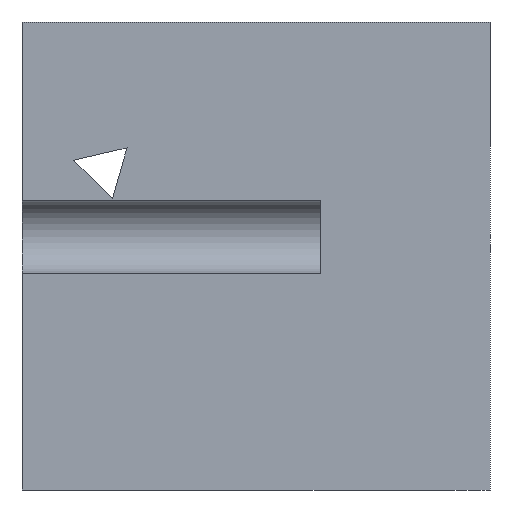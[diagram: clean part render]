
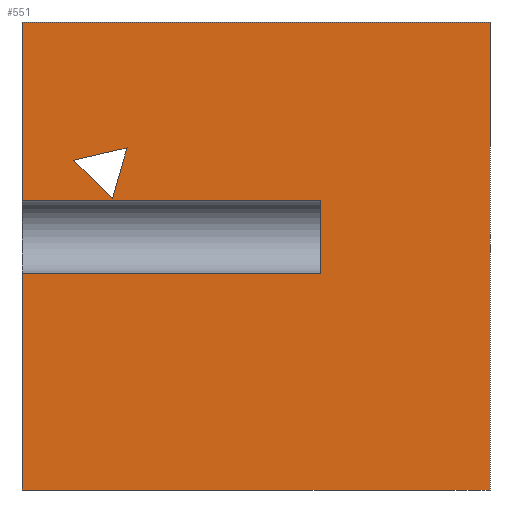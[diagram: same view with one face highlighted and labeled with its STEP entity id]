
A CAD part, left-side view. The second image highlights one B-rep face of the part: STEP entity #551.
In plain terms, the highlighted planar face has unit normal (-1, 0, 0).
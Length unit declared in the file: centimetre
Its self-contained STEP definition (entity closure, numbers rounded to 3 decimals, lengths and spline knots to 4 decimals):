
#1 = CARTESIAN_POINT ( 'NONE',  ( 0., 775.6127, 731.1019 ) ) ;
#15 = CARTESIAN_POINT ( 'NONE',  ( 0., 1000., 619.3655 ) ) ;
#21 = EDGE_CURVE ( 'NONE', #167, #868, #258, .T. ) ;
#22 = ORIENTED_EDGE ( 'NONE', *, *, #228, .T. ) ;
#48 = VECTOR ( 'NONE', #416, 100. ) ;
#52 = DIRECTION ( 'NONE',  ( 0., 1., 0. ) ) ;
#55 = LINE ( 'NONE', #59, #65 ) ;
#59 = CARTESIAN_POINT ( 'NONE',  ( 0., 1000., 1000. ) ) ;
#65 = VECTOR ( 'NONE', #333, 100. ) ;
#69 = EDGE_CURVE ( 'NONE', #899, #729, #55, .T. ) ;
#107 = CARTESIAN_POINT ( 'NONE',  ( 0., 361.7893, 619.3655 ) ) ;
#110 = CARTESIAN_POINT ( 'NONE',  ( 0., 1000., 1000. ) ) ;
#119 = VECTOR ( 'NONE', #781, 100. ) ;
#134 = CARTESIAN_POINT ( 'NONE',  ( 0., 1000., 1000. ) ) ;
#138 = LINE ( 'NONE', #148, #775 ) ;
#146 = EDGE_CURVE ( 'NONE', #713, #654, #154, .T. ) ;
#148 = CARTESIAN_POINT ( 'NONE',  ( 0., 1000., 1000. ) ) ;
#154 = LINE ( 'NONE', #168, #903 ) ;
#167 = VERTEX_POINT ( 'NONE', #107 ) ;
#168 = CARTESIAN_POINT ( 'NONE',  ( 0., 806.7545, 622.1771 ) ) ;
#174 = DIRECTION ( 'NONE',  ( 0., 0., -1. ) ) ;
#204 = LINE ( 'NONE', #843, #671 ) ;
#205 = CARTESIAN_POINT ( 'NONE',  ( 0., 889.1642, 704.5868 ) ) ;
#216 = EDGE_CURVE ( 'NONE', #749, #302, #346, .T. ) ;
#222 = AXIS2_PLACEMENT_3D ( 'NONE', #687, #328, #174 ) ;
#228 = EDGE_CURVE ( 'NONE', #520, #749, #698, .T. ) ;
#243 = DIRECTION ( 'NONE',  ( 0., 0.275, -0.961 ) ) ;
#245 = ORIENTED_EDGE ( 'NONE', *, *, #269, .T. ) ;
#258 = LINE ( 'NONE', #335, #310 ) ;
#269 = EDGE_CURVE ( 'NONE', #605, #713, #496, .T. ) ;
#272 = CARTESIAN_POINT ( 'NONE',  ( 0., 1000., 0. ) ) ;
#282 = DIRECTION ( 'NONE',  ( 0., -1., 0. ) ) ;
#287 = CARTESIAN_POINT ( 'NONE',  ( 0., 1000., 0. ) ) ;
#289 = EDGE_CURVE ( 'NONE', #899, #868, #138, .T. ) ;
#302 = VERTEX_POINT ( 'NONE', #485 ) ;
#308 = ORIENTED_EDGE ( 'NONE', *, *, #426, .F. ) ;
#310 = VECTOR ( 'NONE', #52, 100. ) ;
#326 = VECTOR ( 'NONE', #508, 100. ) ;
#328 = DIRECTION ( 'NONE',  ( 1., 0., 0. ) ) ;
#333 = DIRECTION ( 'NONE',  ( 0., -1., 0. ) ) ;
#335 = CARTESIAN_POINT ( 'NONE',  ( 0., 361.7893, 619.3655 ) ) ;
#337 = EDGE_CURVE ( 'NONE', #425, #520, #204, .T. ) ;
#346 = LINE ( 'NONE', #287, #559 ) ;
#353 = CARTESIAN_POINT ( 'NONE',  ( 0., 0., 1000. ) ) ;
#400 = PLANE ( 'NONE',  #222 ) ;
#412 = DIRECTION ( 'NONE',  ( 0., 0., -1. ) ) ;
#416 = DIRECTION ( 'NONE',  ( 0., 0., -1. ) ) ;
#425 = VERTEX_POINT ( 'NONE', #708 ) ;
#426 = EDGE_CURVE ( 'NONE', #729, #302, #712, .T. ) ;
#452 = ORIENTED_EDGE ( 'NONE', *, *, #216, .T. ) ;
#453 = ORIENTED_EDGE ( 'NONE', *, *, #337, .T. ) ;
#461 = EDGE_LOOP ( 'NONE', ( #550, #453, #22, #452, #308, #816, #535, #472 ) ) ;
#472 = ORIENTED_EDGE ( 'NONE', *, *, #21, .F. ) ;
#485 = CARTESIAN_POINT ( 'NONE',  ( 0., 0., 0. ) ) ;
#489 = CARTESIAN_POINT ( 'NONE',  ( 0., 775.6127, 731.1019 ) ) ;
#496 = LINE ( 'NONE', #489, #119 ) ;
#508 = DIRECTION ( 'NONE',  ( 0., 0.707, 0.707 ) ) ;
#509 = DIRECTION ( 'NONE',  ( 0., 1., 0. ) ) ;
#518 = CARTESIAN_POINT ( 'NONE',  ( 0., 889.1642, 704.5868 ) ) ;
#519 = ORIENTED_EDGE ( 'NONE', *, *, #852, .T. ) ;
#520 = VERTEX_POINT ( 'NONE', #881 ) ;
#534 = FACE_BOUND ( 'NONE', #737, .T. ) ;
#535 = ORIENTED_EDGE ( 'NONE', *, *, #289, .T. ) ;
#550 = ORIENTED_EDGE ( 'NONE', *, *, #562, .T. ) ;
#551 = ADVANCED_FACE ( 'NONE', ( #534, #680 ), #400, .F. ) ;
#559 = VECTOR ( 'NONE', #282, 100. ) ;
#562 = EDGE_CURVE ( 'NONE', #167, #425, #620, .T. ) ;
#565 = CARTESIAN_POINT ( 'NONE',  ( 0., 806.7545, 622.1771 ) ) ;
#581 = DIRECTION ( 'NONE',  ( 0., 0., -1. ) ) ;
#605 = VERTEX_POINT ( 'NONE', #205 ) ;
#620 = LINE ( 'NONE', #895, #48 ) ;
#632 = CARTESIAN_POINT ( 'NONE',  ( 0., 0., 1000. ) ) ;
#654 = VERTEX_POINT ( 'NONE', #565 ) ;
#671 = VECTOR ( 'NONE', #509, 100. ) ;
#680 = FACE_OUTER_BOUND ( 'NONE', #461, .T. ) ;
#687 = CARTESIAN_POINT ( 'NONE',  ( 0., 1000., 1000. ) ) ;
#688 = VECTOR ( 'NONE', #581, 100. ) ;
#698 = LINE ( 'NONE', #134, #733 ) ;
#708 = CARTESIAN_POINT ( 'NONE',  ( 0., 361.7893, 462.5363 ) ) ;
#712 = LINE ( 'NONE', #353, #688 ) ;
#713 = VERTEX_POINT ( 'NONE', #1 ) ;
#729 = VERTEX_POINT ( 'NONE', #632 ) ;
#733 = VECTOR ( 'NONE', #412, 100. ) ;
#737 = EDGE_LOOP ( 'NONE', ( #245, #810, #519 ) ) ;
#749 = VERTEX_POINT ( 'NONE', #272 ) ;
#775 = VECTOR ( 'NONE', #855, 100. ) ;
#781 = DIRECTION ( 'NONE',  ( 0., -0.974, 0.227 ) ) ;
#810 = ORIENTED_EDGE ( 'NONE', *, *, #146, .T. ) ;
#816 = ORIENTED_EDGE ( 'NONE', *, *, #69, .F. ) ;
#843 = CARTESIAN_POINT ( 'NONE',  ( 0., 361.7893, 462.5363 ) ) ;
#852 = EDGE_CURVE ( 'NONE', #654, #605, #867, .T. ) ;
#855 = DIRECTION ( 'NONE',  ( 0., 0., -1. ) ) ;
#867 = LINE ( 'NONE', #518, #326 ) ;
#868 = VERTEX_POINT ( 'NONE', #15 ) ;
#881 = CARTESIAN_POINT ( 'NONE',  ( 0., 1000., 462.5363 ) ) ;
#895 = CARTESIAN_POINT ( 'NONE',  ( 0., 361.7893, 1000. ) ) ;
#899 = VERTEX_POINT ( 'NONE', #110 ) ;
#903 = VECTOR ( 'NONE', #243, 100. ) ;
